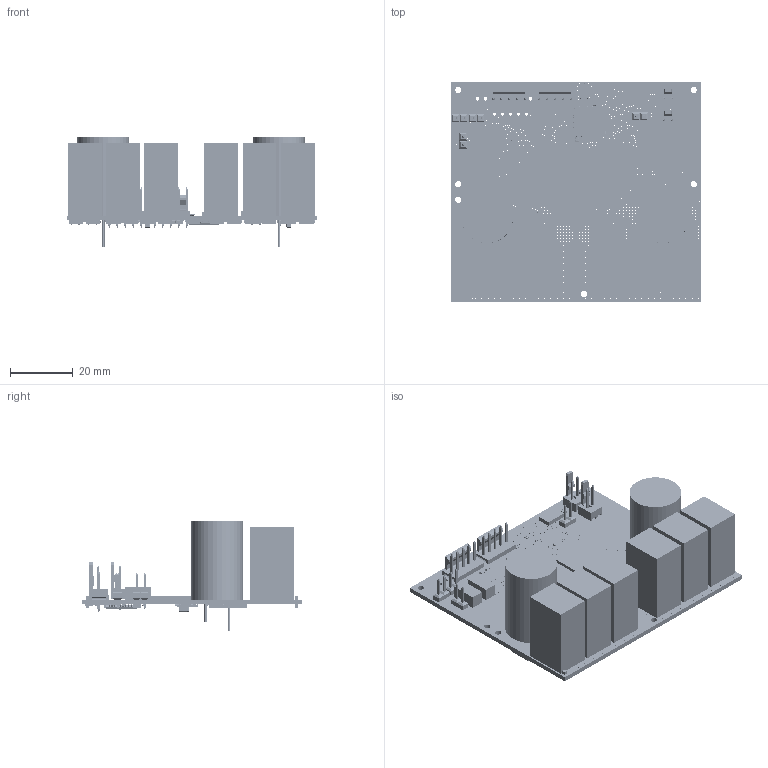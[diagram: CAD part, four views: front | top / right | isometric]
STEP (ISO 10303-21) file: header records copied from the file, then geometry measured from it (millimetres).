
FILE_DESCRIPTION(/* description */ (''),/* implementation_level */ '2;1');
FILE_NAME(/* name */ 'C:/Users/priba/Downloads/mrm-bldc2x125.step',/* time_stamp */ '2020-09-13T09:27:37+02:00',/* author */ (''),/* organization */ (''),/* preprocessor_version */ 'ST-DEVELOPER v18.1',/* originating_system */ 'Autodesk Translation Framework v9.3.0.1241',/* authorisation */ '');
FILE_SCHEMA (('AUTOMOTIVE_DESIGN { 1 0 10303 214 3 1 1 }'));
Length unit declared in the file: millimetre
Products named in the file (52): mrm-bldc2x125; PCB Component; Board; ON_SEMICONDUCTOR_RB751S40T1G; DIODES_MMBT3904-7-F; STM32F072RBT6; Body; PinsArrayLR; PinsArrayTB; MOLEX_22-27-2021; VISHAY_SI2347DS-T1-GE3; CONN_02; 1.5kOhm/0603; TI_ESD321DPYR; term1; term2; body_1; TI_TPD8E003DQDR; Body (1); ThermalPin; PinsArrayLR (1); TI_DRV8323SRTAR; Body (2); ThermalPin (1); PinsArrayLR (2); PinsArrayTB (1); VISHAY_WSLF2512; term1 (1); term2 (1); body (1)_1; PANASONIC_EEU-FS1K681; SimpleBody; Pin1; Pin2; SML-P11MTT86R; 100nF/60V; 15uF/60V; Fillet1; Fillet2; body2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
Assembly tree (123 placements, depth 4):
  mrm-bldc2x125
    PCB Component
      Board
      ON_SEMICONDUCTOR_RB751S40T1G
      DIODES_MMBT3904-7-F
      STM32F072RBT6
        Body
        PinsArrayLR
        PinsArrayTB
      100nF/50V  x19
      MOLEX_22-27-2021  x2
      VISHAY_SI2347DS-T1-GE3
      CONN_02  x4
      1.5kOhm/0603
      TI_ESD321DPYR  x5
        term1
        term2
        body_1
      TI_TPD8E003DQDR
        Body (1)
        ThermalPin
        PinsArrayLR (1)
      TI_DRV8323SRTAR  x2
        Body (2)
        ThermalPin (1)
        PinsArrayLR (2)
        PinsArrayTB (1)
      VISHAY_WSLF2512  x6
        term1 (1)
        term2 (1)
        body (1)_1
      PANASONIC_EEU-FS1K681  x2
        SimpleBody
        Pin1
        Pin2
      SML-P11MTT86R
      100nF/60V  x8
      15uF/60V  x2
        Fillet1
        Fillet2
        body2
      MOLEX_1718560005  x2
      1.5kOhm  x9
      FIDUCIAL1X2  x4
      JST_BM04B-GHK-TBT  x2
      CONN_051X05_PINLESS
      CONN_03X2NO_SILK
      MICROCHIP_ATA6561-GBQW-N
      TI_CSD18540Q5B  x13
      JST_BC01B-JFPS()-T()  x6
      JST_BC02B-JFPS()-T()  x2
      EPSON_TSX-3225
Bounding box: 79.8 x 69.8 x 35 mm (x, y, z)
Volume: 42190.7 mm3; surface area: 30789.9 mm2
Topology: 295 solids, 295 shells, 5757 faces, 14805 edges, 9495 vertices
Faces by surface type: plane 3168, cylinder 2157, sphere 400, bspline 32
Full cylindrical faces by diameter (mm): 0.169 x1, 0.3 x811, 0.75 x2, 0.85 x4, 1.016 x19, 1.05 x8, 1.2 x10, 1.25 x1, 2 x26, 2.7 x10, 16.5 x2
Entity records: 98183 total; most frequent: CARTESIAN_POINT 17867, DIRECTION 16035, ORIENTED_EDGE 15108, EDGE_CURVE 7554, AXIS2_PLACEMENT_3D 5682, VERTEX_POINT 4973, EDGE_LOOP 4763, LINE 4671
